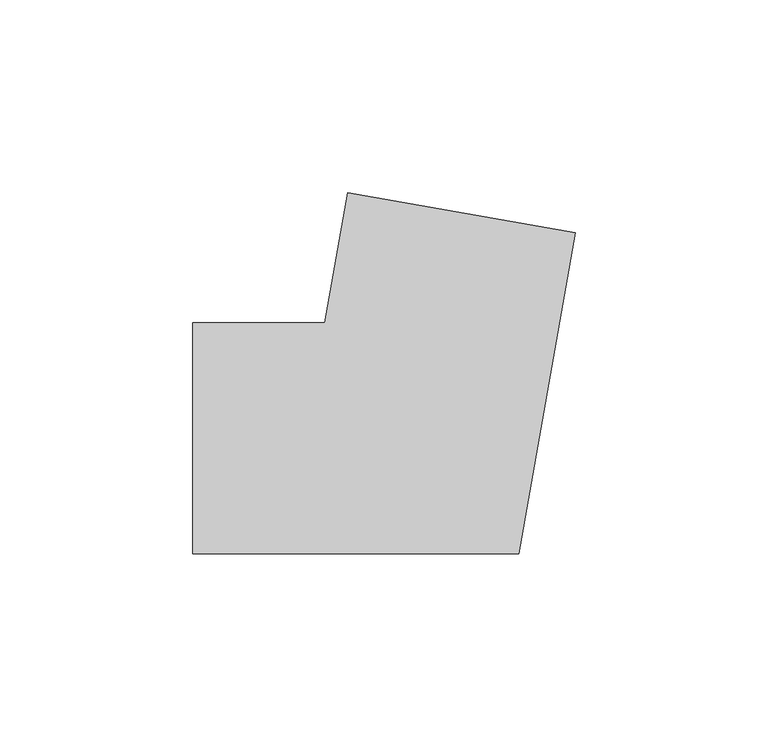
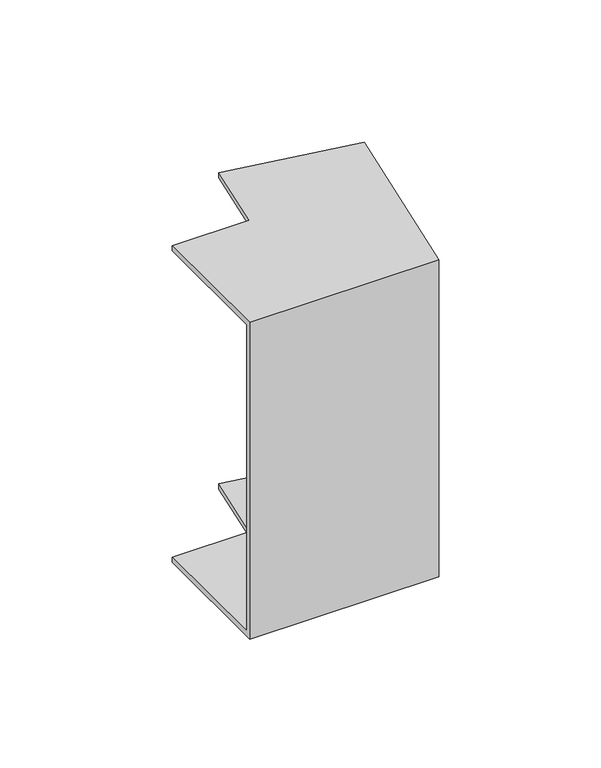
"""IFC4 building model written with IfcOpenShell, lengths in millimetres: cable carrier fitting geometry, КНС_УголВнутренний_ILC_DKC : Угол внутренний_DKC."""

from ifc_helpers import new_model, si_unit, origin, place, context, project, spatial, faceted_brep, source, transform, mapped, element, save


def cable_carrier_fitting_13c22987(model_context):
    return source(origin(), model_context, "Body", "Brep", [
        faceted_brep([(-59.541476, -30.0, 75.0), (-59.541476, 30.0, 75.0), (-59.541476, 30.0, 72.5), (-59.541476, -27.5, 72.5), (-59.541476, -27.5, -72.5), (-59.541476, 30.0, -72.5), (-59.541476, 30.0, -75.0), (-59.541476, -30.0, -75.0), (39.8835014, 53.4274619, 75.0), (39.8835014, 53.4274619, -75.0), (-19.2049638, 63.8463525, -75.0), (-19.2049638, 63.8463525, -72.5), (37.421482, 53.8615823, -72.5), (37.421482, 53.8615823, 72.5), (-19.2049638, 63.8463525, 72.5), (-19.2049638, 63.8463525, 75.0), (25.1729889, -30.0, 75.0), (-25.1729889, 30.0, 75.0), (-25.1729889, 30.0, 72.5), (23.0752399, -27.5, 72.5), (23.0752399, -27.5, -72.5), (-25.1729889, 30.0, -72.5), (-25.1729889, 30.0, -75.0), (25.1729889, -30.0, -75.0)], [[[0, 1, 2, 3, 4, 5, 6, 7]], [[8, 9, 10, 11, 12, 13, 14, 15]], [[1, 0, 16, 8, 15, 17]], [[2, 1, 17, 18]], [[3, 2, 18, 14, 13, 19]], [[4, 3, 19, 20]], [[5, 4, 20, 12, 11, 21]], [[6, 5, 21, 22]], [[7, 6, 22, 10, 9, 23]], [[0, 7, 23, 16]], [[18, 17, 15, 14]], [[20, 19, 13, 12]], [[22, 21, 11, 10]], [[16, 23, 9, 8]]]),
    ])


if __name__ == "__main__":
    model = new_model("IFC4")
    model_context = context("Model", 3, world=origin())
    ifc_project = project(units=[si_unit("LENGTHUNIT", "METRE", prefix="MILLI")], contexts=[model_context])
    site = spatial("IfcSite", under=ifc_project)
    building = spatial("IfcBuilding", under=site)
    placement = place(None, origin())
    cable_carrier_fitting_shape = cable_carrier_fitting_13c22987(model_context)
    element("IfcCableCarrierFitting", 1, ObjectType="КНС_УголВнутренний_ILC_DKC : Угол внутренний_DKC", at=placement, inside=building, context=model_context, shape_type="MappedRepresentation", body=[
        mapped(cable_carrier_fitting_shape, transform((0.0, 0.0, 0.0), x_axis=(1.0, 0.0, 0.0), y_axis=(0.0, 1.0, 0.0), z_axis=(0.0, 0.0, 1.0))),
    ])
    save(model, "model.ifc")
